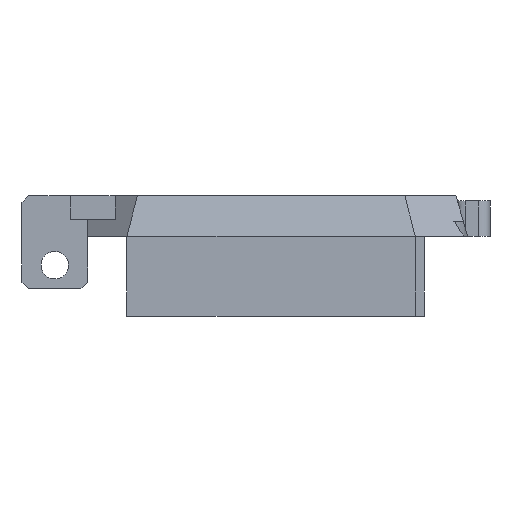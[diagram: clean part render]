
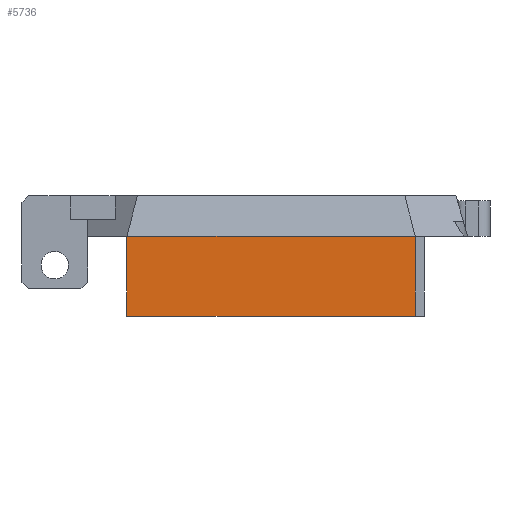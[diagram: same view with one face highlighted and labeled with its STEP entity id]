
A CAD part, left-side view. The second image highlights one B-rep face of the part: STEP entity #5736.
In plain terms, the highlighted planar face has unit normal (-1, 0, 0).
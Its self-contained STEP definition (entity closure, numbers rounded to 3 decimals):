
#136 = PLANE('',#137);
#137 = AXIS2_PLACEMENT_3D('',#138,#139,#140);
#138 = CARTESIAN_POINT('',(-17.,-11.,23.4));
#139 = DIRECTION('',(0.,0.,1.));
#140 = DIRECTION('',(0.825,0.565,-0.));
#2672 = EDGE_CURVE('',#2673,#2675,#2677,.T.);
#2673 = VERTEX_POINT('',#2674);
#2674 = CARTESIAN_POINT('',(-14.,-7.,23.4));
#2675 = VERTEX_POINT('',#2676);
#2676 = CARTESIAN_POINT('',(-14.,15.,23.4));
#2677 = SURFACE_CURVE('',#2678,(#2682,#2689),.PCURVE_S1.);
#2678 = LINE('',#2679,#2680);
#2679 = CARTESIAN_POINT('',(-14.,-7.,23.4));
#2680 = VECTOR('',#2681,1.);
#2681 = DIRECTION('',(0.,1.,0.));
#2682 = PCURVE('',#136,#2683);
#2683 = DEFINITIONAL_REPRESENTATION('',(#2684),#2688);
#2684 = LINE('',#2685,#2686);
#2685 = CARTESIAN_POINT('',(4.735,1.607));
#2686 = VECTOR('',#2687,1.);
#2687 = DIRECTION('',(0.565,0.825));
#2688 = ( GEOMETRIC_REPRESENTATION_CONTEXT(2) 
PARAMETRIC_REPRESENTATION_CONTEXT() REPRESENTATION_CONTEXT('2D SPACE',''
  ) );
#2689 = PCURVE('',#2690,#2695);
#2690 = PLANE('',#2691);
#2691 = AXIS2_PLACEMENT_3D('',#2692,#2693,#2694);
#2692 = CARTESIAN_POINT('',(-14.,-7.,17.3));
#2693 = DIRECTION('',(1.,0.,0.));
#2694 = DIRECTION('',(0.,0.,1.));
#2695 = DEFINITIONAL_REPRESENTATION('',(#2696),#2700);
#2696 = LINE('',#2697,#2698);
#2697 = CARTESIAN_POINT('',(6.1,0.));
#2698 = VECTOR('',#2699,1.);
#2699 = DIRECTION('',(0.,-1.));
#2700 = ( GEOMETRIC_REPRESENTATION_CONTEXT(2) 
PARAMETRIC_REPRESENTATION_CONTEXT() REPRESENTATION_CONTEXT('2D SPACE',''
  ) );
#2718 = PLANE('',#2719);
#2719 = AXIS2_PLACEMENT_3D('',#2720,#2721,#2722);
#2720 = CARTESIAN_POINT('',(-14.,15.,17.3));
#2721 = DIRECTION('',(0.,1.,0.));
#2722 = DIRECTION('',(0.,0.,1.));
#2772 = PLANE('',#2773);
#2773 = AXIS2_PLACEMENT_3D('',#2774,#2775,#2776);
#2774 = CARTESIAN_POINT('',(-14.,-7.,17.3));
#2775 = DIRECTION('',(0.,1.,0.));
#2776 = DIRECTION('',(0.,0.,1.));
#5736 = ADVANCED_FACE('',(#5737),#2690,.F.);
#5737 = FACE_BOUND('',#5738,.F.);
#5738 = EDGE_LOOP('',(#5739,#5762,#5790,#5811));
#5739 = ORIENTED_EDGE('',*,*,#5740,.F.);
#5740 = EDGE_CURVE('',#5741,#2673,#5743,.T.);
#5741 = VERTEX_POINT('',#5742);
#5742 = CARTESIAN_POINT('',(-14.,-7.,17.3));
#5743 = SURFACE_CURVE('',#5744,(#5748,#5755),.PCURVE_S1.);
#5744 = LINE('',#5745,#5746);
#5745 = CARTESIAN_POINT('',(-14.,-7.,17.3));
#5746 = VECTOR('',#5747,1.);
#5747 = DIRECTION('',(0.,0.,1.));
#5748 = PCURVE('',#2690,#5749);
#5749 = DEFINITIONAL_REPRESENTATION('',(#5750),#5754);
#5750 = LINE('',#5751,#5752);
#5751 = CARTESIAN_POINT('',(0.,0.));
#5752 = VECTOR('',#5753,1.);
#5753 = DIRECTION('',(1.,0.));
#5754 = ( GEOMETRIC_REPRESENTATION_CONTEXT(2) 
PARAMETRIC_REPRESENTATION_CONTEXT() REPRESENTATION_CONTEXT('2D SPACE',''
  ) );
#5755 = PCURVE('',#2772,#5756);
#5756 = DEFINITIONAL_REPRESENTATION('',(#5757),#5761);
#5757 = LINE('',#5758,#5759);
#5758 = CARTESIAN_POINT('',(0.,0.));
#5759 = VECTOR('',#5760,1.);
#5760 = DIRECTION('',(1.,0.));
#5761 = ( GEOMETRIC_REPRESENTATION_CONTEXT(2) 
PARAMETRIC_REPRESENTATION_CONTEXT() REPRESENTATION_CONTEXT('2D SPACE',''
  ) );
#5762 = ORIENTED_EDGE('',*,*,#5763,.T.);
#5763 = EDGE_CURVE('',#5741,#5764,#5766,.T.);
#5764 = VERTEX_POINT('',#5765);
#5765 = CARTESIAN_POINT('',(-14.,15.,17.3));
#5766 = SURFACE_CURVE('',#5767,(#5771,#5778),.PCURVE_S1.);
#5767 = LINE('',#5768,#5769);
#5768 = CARTESIAN_POINT('',(-14.,-7.,17.3));
#5769 = VECTOR('',#5770,1.);
#5770 = DIRECTION('',(0.,1.,0.));
#5771 = PCURVE('',#2690,#5772);
#5772 = DEFINITIONAL_REPRESENTATION('',(#5773),#5777);
#5773 = LINE('',#5774,#5775);
#5774 = CARTESIAN_POINT('',(0.,0.));
#5775 = VECTOR('',#5776,1.);
#5776 = DIRECTION('',(0.,-1.));
#5777 = ( GEOMETRIC_REPRESENTATION_CONTEXT(2) 
PARAMETRIC_REPRESENTATION_CONTEXT() REPRESENTATION_CONTEXT('2D SPACE',''
  ) );
#5778 = PCURVE('',#5779,#5784);
#5779 = PLANE('',#5780);
#5780 = AXIS2_PLACEMENT_3D('',#5781,#5782,#5783);
#5781 = CARTESIAN_POINT('',(-14.,-7.,17.3));
#5782 = DIRECTION('',(0.,0.,1.));
#5783 = DIRECTION('',(1.,0.,0.));
#5784 = DEFINITIONAL_REPRESENTATION('',(#5785),#5789);
#5785 = LINE('',#5786,#5787);
#5786 = CARTESIAN_POINT('',(0.,0.));
#5787 = VECTOR('',#5788,1.);
#5788 = DIRECTION('',(0.,1.));
#5789 = ( GEOMETRIC_REPRESENTATION_CONTEXT(2) 
PARAMETRIC_REPRESENTATION_CONTEXT() REPRESENTATION_CONTEXT('2D SPACE',''
  ) );
#5790 = ORIENTED_EDGE('',*,*,#5791,.T.);
#5791 = EDGE_CURVE('',#5764,#2675,#5792,.T.);
#5792 = SURFACE_CURVE('',#5793,(#5797,#5804),.PCURVE_S1.);
#5793 = LINE('',#5794,#5795);
#5794 = CARTESIAN_POINT('',(-14.,15.,17.3));
#5795 = VECTOR('',#5796,1.);
#5796 = DIRECTION('',(0.,0.,1.));
#5797 = PCURVE('',#2690,#5798);
#5798 = DEFINITIONAL_REPRESENTATION('',(#5799),#5803);
#5799 = LINE('',#5800,#5801);
#5800 = CARTESIAN_POINT('',(0.,-22.));
#5801 = VECTOR('',#5802,1.);
#5802 = DIRECTION('',(1.,0.));
#5803 = ( GEOMETRIC_REPRESENTATION_CONTEXT(2) 
PARAMETRIC_REPRESENTATION_CONTEXT() REPRESENTATION_CONTEXT('2D SPACE',''
  ) );
#5804 = PCURVE('',#2718,#5805);
#5805 = DEFINITIONAL_REPRESENTATION('',(#5806),#5810);
#5806 = LINE('',#5807,#5808);
#5807 = CARTESIAN_POINT('',(0.,0.));
#5808 = VECTOR('',#5809,1.);
#5809 = DIRECTION('',(1.,0.));
#5810 = ( GEOMETRIC_REPRESENTATION_CONTEXT(2) 
PARAMETRIC_REPRESENTATION_CONTEXT() REPRESENTATION_CONTEXT('2D SPACE',''
  ) );
#5811 = ORIENTED_EDGE('',*,*,#2672,.F.);
